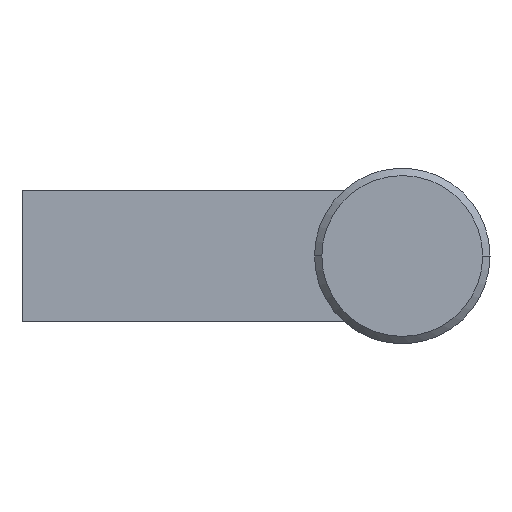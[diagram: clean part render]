
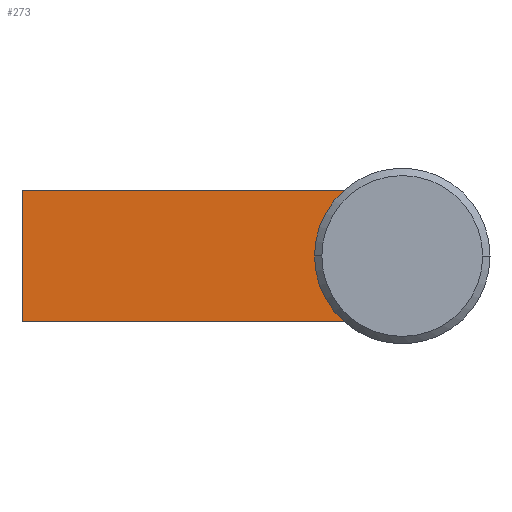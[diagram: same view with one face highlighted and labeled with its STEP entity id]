
A CAD part, left-side view. The second image highlights one B-rep face of the part: STEP entity #273.
In plain terms, the highlighted planar face has unit normal (-1, 0, 0).
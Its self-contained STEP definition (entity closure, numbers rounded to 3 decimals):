
#159 = VERTEX_POINT( '', #404 );
#175 = VERTEX_POINT( '', #422 );
#191 = EDGE_CURVE( '', #159, #359, #438, .T. );
#209 = EDGE_CURVE( '', #313, #175, #457, .T. );
#263 = EDGE_CURVE( '', #175, #343, #520, .T. );
#273 = ADVANCED_FACE( '', ( #531 ), #532, .F. );
#303 = EDGE_CURVE( '', #159, #313, #566, .T. );
#313 = VERTEX_POINT( '', #576 );
#343 = VERTEX_POINT( '', #609 );
#347 = EDGE_CURVE( '', #359, #343, #613, .T. );
#359 = VERTEX_POINT( '', #627 );
#404 = CARTESIAN_POINT( '', ( -10.5, -22.031, -4.5 ) );
#422 = CARTESIAN_POINT( '', ( -10.5, 0., 4.5 ) );
#438 = CIRCLE( '', #717, 6. );
#457 = LINE( '', #743, #744 );
#520 = LINE( '', #824, #825 );
#531 = FACE_OUTER_BOUND( '', #840, .T. );
#532 = PLANE( '', #841 );
#566 = LINE( '', #885, #886 );
#576 = CARTESIAN_POINT( '', ( -10.5, 0., -4.5 ) );
#609 = CARTESIAN_POINT( '', ( -10.5, -22.031, 4.5 ) );
#613 = CIRCLE( '', #952, 6. );
#627 = CARTESIAN_POINT( '', ( -10.5, -20., 0. ) );
#717 = AXIS2_PLACEMENT_3D( '', #1032, #1033, #1034 );
#743 = CARTESIAN_POINT( '', ( -10.5, 0., -4.5 ) );
#744 = VECTOR( '', #1050, 1. );
#824 = CARTESIAN_POINT( '', ( -10.5, 0., 4.5 ) );
#825 = VECTOR( '', #1135, 1. );
#840 = EDGE_LOOP( '', ( #1148, #1149, #1150, #1151, #1152 ) );
#841 = AXIS2_PLACEMENT_3D( '', #1153, #1154, #1155 );
#885 = CARTESIAN_POINT( '', ( -10.5, -22.031, -4.5 ) );
#886 = VECTOR( '', #1205, 1. );
#952 = AXIS2_PLACEMENT_3D( '', #1254, #1255, #1256 );
#1032 = CARTESIAN_POINT( '', ( -10.5, -26., 0. ) );
#1033 = DIRECTION( '', ( 1., 0., 0. ) );
#1034 = DIRECTION( '', ( 0., -1., 0. ) );
#1050 = DIRECTION( '', ( 0., 0., 1. ) );
#1135 = DIRECTION( '', ( 0., -1., 0. ) );
#1148 = ORIENTED_EDGE( '', *, *, #303, .F. );
#1149 = ORIENTED_EDGE( '', *, *, #191, .T. );
#1150 = ORIENTED_EDGE( '', *, *, #347, .T. );
#1151 = ORIENTED_EDGE( '', *, *, #263, .F. );
#1152 = ORIENTED_EDGE( '', *, *, #209, .F. );
#1153 = CARTESIAN_POINT( '', ( -10.5, 0., 0. ) );
#1154 = DIRECTION( '', ( 1., 0., 0. ) );
#1155 = DIRECTION( '', ( 0., 0., -1. ) );
#1205 = DIRECTION( '', ( 0., 1., 0. ) );
#1254 = CARTESIAN_POINT( '', ( -10.5, -26., 0. ) );
#1255 = DIRECTION( '', ( 1., 0., 0. ) );
#1256 = DIRECTION( '', ( 0., -1., 0. ) );
